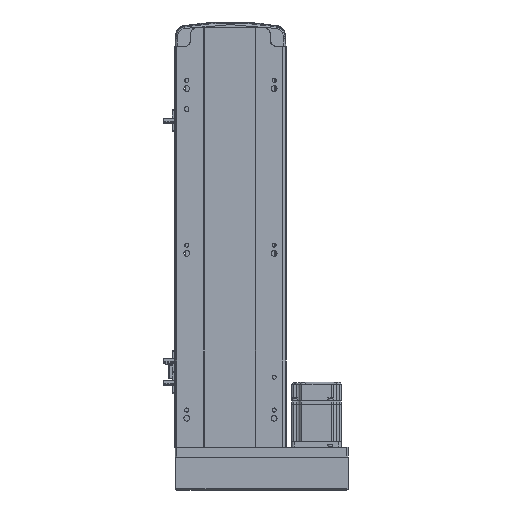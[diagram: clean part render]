
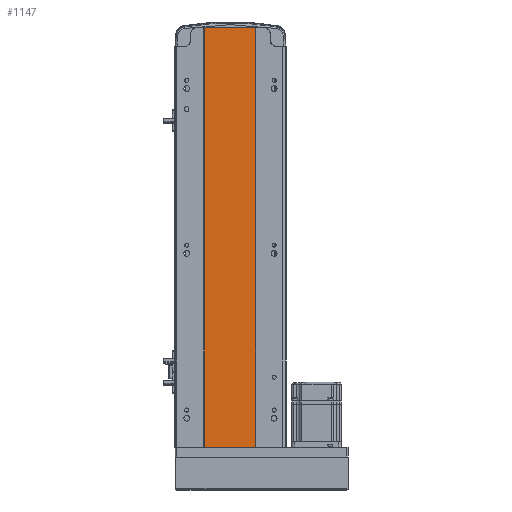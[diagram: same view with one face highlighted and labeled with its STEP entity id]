
A CAD part, front view. The second image highlights one B-rep face of the part: STEP entity #1147.
In plain terms, the highlighted planar face has unit normal (0, -1, 0).
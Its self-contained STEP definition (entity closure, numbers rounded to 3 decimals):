
#1 = DIRECTION ( 'NONE',  ( 0., 1., 0. ) ) ;
#228 = VERTEX_POINT ( 'NONE', #32849 ) ;
#1147 = ADVANCED_FACE ( 'NONE', ( #5546 ), #39175, .F. ) ;
#3102 = ORIENTED_EDGE ( 'NONE', *, *, #19156, .T. ) ;
#3770 = VECTOR ( 'NONE', #55404, 1000. ) ;
#4291 = LINE ( 'NONE', #36703, #49238 ) ;
#5546 = FACE_OUTER_BOUND ( 'NONE', #56399, .T. ) ;
#6701 = CARTESIAN_POINT ( 'NONE',  ( -32., 1., 509. ) ) ;
#7171 = CARTESIAN_POINT ( 'NONE',  ( -32., 1., 509. ) ) ;
#8558 = CARTESIAN_POINT ( 'NONE',  ( -32., 1., 509. ) ) ;
#10682 = EDGE_CURVE ( 'NONE', #11432, #36296, #15344, .T. ) ;
#11432 = VERTEX_POINT ( 'NONE', #7171 ) ;
#13287 = LINE ( 'NONE', #44453, #36422 ) ;
#15342 = CARTESIAN_POINT ( 'NONE',  ( 30., 1., 0. ) ) ;
#15344 = LINE ( 'NONE', #55218, #3770 ) ;
#15378 = LINE ( 'NONE', #6701, #37140 ) ;
#19156 = EDGE_CURVE ( 'NONE', #228, #32253, #13287, .T. ) ;
#19792 = EDGE_CURVE ( 'NONE', #11432, #228, #15378, .T. ) ;
#20765 = CARTESIAN_POINT ( 'NONE',  ( 30., 1., 509. ) ) ;
#23849 = ORIENTED_EDGE ( 'NONE', *, *, #53748, .F. ) ;
#28369 = DIRECTION ( 'NONE',  ( 0., 0., -1. ) ) ;
#31078 = ORIENTED_EDGE ( 'NONE', *, *, #19792, .T. ) ;
#31720 = DIRECTION ( 'NONE',  ( 1., 0., 0. ) ) ;
#32253 = VERTEX_POINT ( 'NONE', #15342 ) ;
#32849 = CARTESIAN_POINT ( 'NONE',  ( -32., 1., 0. ) ) ;
#36296 = VERTEX_POINT ( 'NONE', #20765 ) ;
#36422 = VECTOR ( 'NONE', #31720, 1000. ) ;
#36703 = CARTESIAN_POINT ( 'NONE',  ( 30., 1., 509. ) ) ;
#37140 = VECTOR ( 'NONE', #28369, 1000. ) ;
#38992 = DIRECTION ( 'NONE',  ( -1., 0., 0. ) ) ;
#39175 = PLANE ( 'NONE',  #52522 ) ;
#44453 = CARTESIAN_POINT ( 'NONE',  ( -32., 1., 0. ) ) ;
#49238 = VECTOR ( 'NONE', #50233, 1000. ) ;
#50233 = DIRECTION ( 'NONE',  ( 0., 0., -1. ) ) ;
#51715 = ORIENTED_EDGE ( 'NONE', *, *, #10682, .F. ) ;
#52522 = AXIS2_PLACEMENT_3D ( 'NONE', #8558, #1, #38992 ) ;
#53748 = EDGE_CURVE ( 'NONE', #36296, #32253, #4291, .T. ) ;
#55218 = CARTESIAN_POINT ( 'NONE',  ( -32., 1., 509. ) ) ;
#55404 = DIRECTION ( 'NONE',  ( 1., 0., 0. ) ) ;
#56399 = EDGE_LOOP ( 'NONE', ( #3102, #23849, #51715, #31078 ) ) ;
